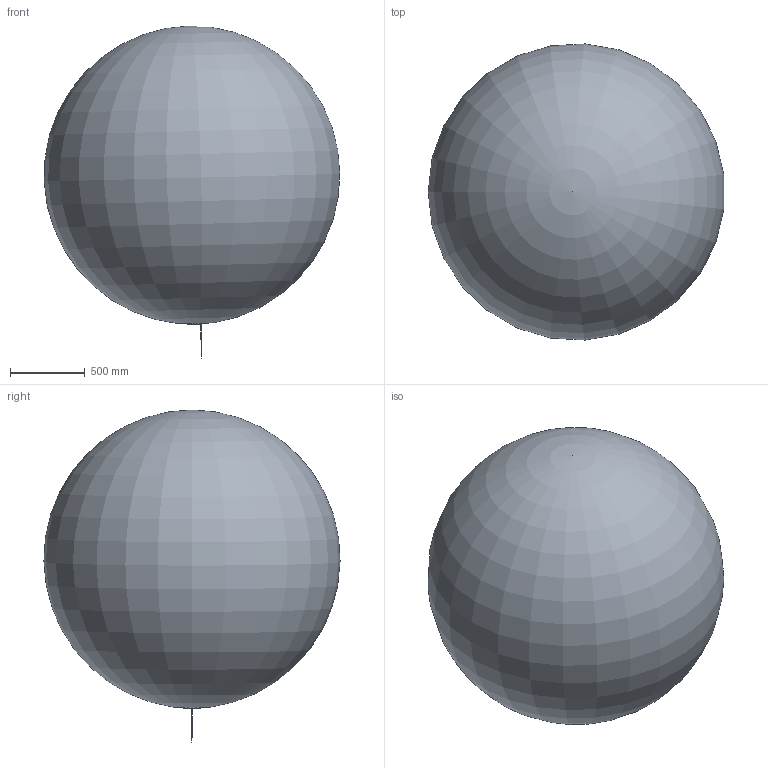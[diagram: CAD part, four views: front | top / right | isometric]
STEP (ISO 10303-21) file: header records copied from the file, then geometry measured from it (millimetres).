
FILE_DESCRIPTION(('STEP AP242'), '1');
FILE_NAME('ﾐﾂﾃ-ﾀ G250', '', ('UNSPECIFIED'), ('UNSPECIFIED'), 'C3D Converter', 'C3D Toolkit', '');
FILE_SCHEMA(('AP242_MANAGED_MODEL_BASED_3D_ENGINEERING_MIM_LF { 1 0 10303 442 1 1 4 }'));
Length unit declared in the file: millimetre
Bounding box: 1981.22 x 1985.25 x 2225.41 mm (x, y, z)
Volume: 4144375656.4 mm3; surface area: 13367289.1 mm2
Topology: 3 solids, 7 shells, 7619 faces, 20957 edges, 13909 vertices
Faces by surface type: extrusion 3474, plane 3148, cylinder 542, cone 224, torus 131, bspline 99, sphere 1
Full cylindrical faces by diameter (mm): 2 x2, 2.5 x7, 3.1 x1, 3.2 x2, 4 x3, 4.3 x2, 5 x14, 6 x4, 6.75 x2, 7.8 x2, 8 x2, 9 x4, 9.264 x2, 10 x1, 10.5 x1, 14 x21, 15 x1, 18 x13, 22 x2, 28 x2, 30 x1, 39 x1, 42.03 x1, 43.03 x1, 43.5 x1, 62.2 x1, 62.4 x2, 67.2 x1, 69 x1, 70 x1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
Entity records: 362201 total; most frequent: CARTESIAN_POINT 123606, ORIENTED_EDGE 41239, DIRECTION 25578, EDGE_CURVE 20628, VECTOR 14808, VERTEX_POINT 13857, LINE 11334, B_SPLINE_CURVE_WITH_KNOTS 11224
